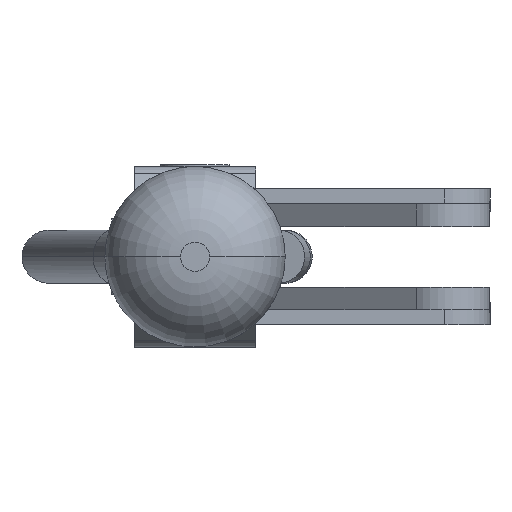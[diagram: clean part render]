
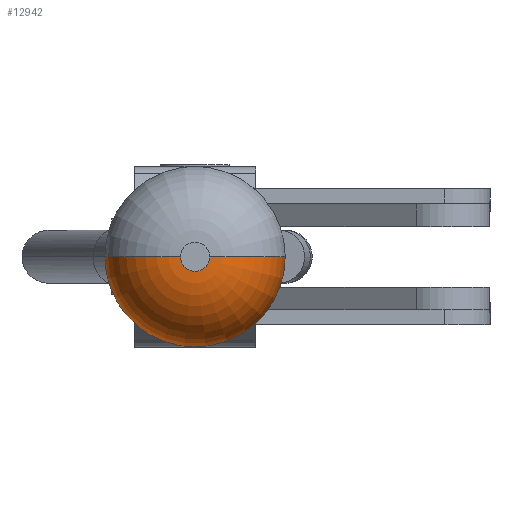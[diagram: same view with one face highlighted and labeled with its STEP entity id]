
A CAD part, left-side view. The second image highlights one B-rep face of the part: STEP entity #12942.
In plain terms, the highlighted toroidal (fillet/blend) face has major radius 1.931 mm and minor radius 10 mm.
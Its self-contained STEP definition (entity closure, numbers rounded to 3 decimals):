
#922 = DIRECTION ( 'NONE',  ( 1., 0., 0. ) ) ;
#1099 = CIRCLE ( 'NONE', #11814, 10. ) ;
#2375 = EDGE_CURVE ( 'NONE', #15005, #16874, #1099, .T. ) ;
#2859 = CIRCLE ( 'NONE', #14734, 1.931 ) ;
#2945 = EDGE_CURVE ( 'NONE', #16874, #10629, #3951, .T. ) ;
#3159 = ORIENTED_EDGE ( 'NONE', *, *, #11461, .F. ) ;
#3207 = AXIS2_PLACEMENT_3D ( 'NONE', #8840, #7450, #13085 ) ;
#3382 = CARTESIAN_POINT ( 'NONE',  ( 1.931, 0., 0. ) ) ;
#3951 = CIRCLE ( 'NONE', #17957, 11.926 ) ;
#4573 = ORIENTED_EDGE ( 'NONE', *, *, #2945, .F. ) ;
#5485 = CARTESIAN_POINT ( 'NONE',  ( 0., 0., 0. ) ) ;
#6186 = TOROIDAL_SURFACE ( 'NONE', #3207, 1.931, 10. ) ;
#6211 = DIRECTION ( 'NONE',  ( 0., -1., 0. ) ) ;
#7023 = DIRECTION ( 'NONE',  ( 0., 0., 1. ) ) ;
#7450 = DIRECTION ( 'NONE',  ( 0., 0., 1. ) ) ;
#8042 = EDGE_CURVE ( 'NONE', #12000, #10629, #12609, .T. ) ;
#8840 = CARTESIAN_POINT ( 'NONE',  ( 0., 0., 10. ) ) ;
#9725 = DIRECTION ( 'NONE',  ( 1., 0., 0. ) ) ;
#10496 = CARTESIAN_POINT ( 'NONE',  ( 1.931, 0., 10. ) ) ;
#10629 = VERTEX_POINT ( 'NONE', #15763 ) ;
#11461 = EDGE_CURVE ( 'NONE', #12000, #15005, #2859, .T. ) ;
#11814 = AXIS2_PLACEMENT_3D ( 'NONE', #10496, #6211, #11880 ) ;
#11880 = DIRECTION ( 'NONE',  ( 0., 0., -1. ) ) ;
#12000 = VERTEX_POINT ( 'NONE', #13224 ) ;
#12609 = CIRCLE ( 'NONE', #13186, 10. ) ;
#12658 = ORIENTED_EDGE ( 'NONE', *, *, #8042, .T. ) ;
#12942 = ADVANCED_FACE ( 'NONE', ( #15627 ), #6186, .T. ) ;
#13085 = DIRECTION ( 'NONE',  ( 1., 0., 0. ) ) ;
#13186 = AXIS2_PLACEMENT_3D ( 'NONE', #14717, #13402, #14812 ) ;
#13224 = CARTESIAN_POINT ( 'NONE',  ( -1.931, 0., 0. ) ) ;
#13402 = DIRECTION ( 'NONE',  ( 0., 1., 0. ) ) ;
#14414 = CARTESIAN_POINT ( 'NONE',  ( 0., 0., 10.314 ) ) ;
#14717 = CARTESIAN_POINT ( 'NONE',  ( -1.931, 0., 10. ) ) ;
#14734 = AXIS2_PLACEMENT_3D ( 'NONE', #5485, #16585, #922 ) ;
#14812 = DIRECTION ( 'NONE',  ( -1., 0., 0. ) ) ;
#15005 = VERTEX_POINT ( 'NONE', #3382 ) ;
#15627 = FACE_OUTER_BOUND ( 'NONE', #16033, .T. ) ;
#15763 = CARTESIAN_POINT ( 'NONE',  ( -11.926, 0., 10.314 ) ) ;
#16033 = EDGE_LOOP ( 'NONE', ( #3159, #12658, #4573, #18155 ) ) ;
#16585 = DIRECTION ( 'NONE',  ( 0., 0., -1. ) ) ;
#16874 = VERTEX_POINT ( 'NONE', #17416 ) ;
#17416 = CARTESIAN_POINT ( 'NONE',  ( 11.926, 0., 10.314 ) ) ;
#17957 = AXIS2_PLACEMENT_3D ( 'NONE', #14414, #7023, #9725 ) ;
#18155 = ORIENTED_EDGE ( 'NONE', *, *, #2375, .F. ) ;
